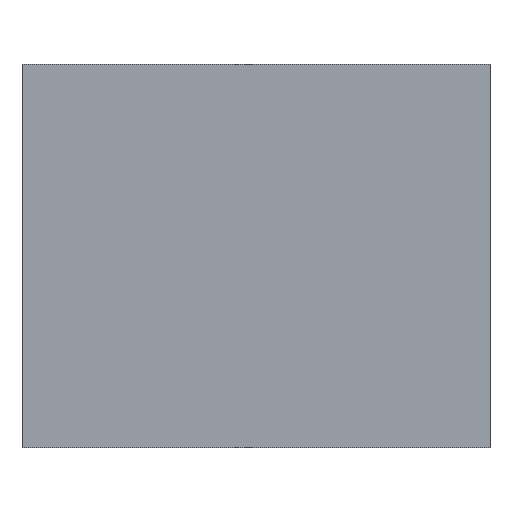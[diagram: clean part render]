
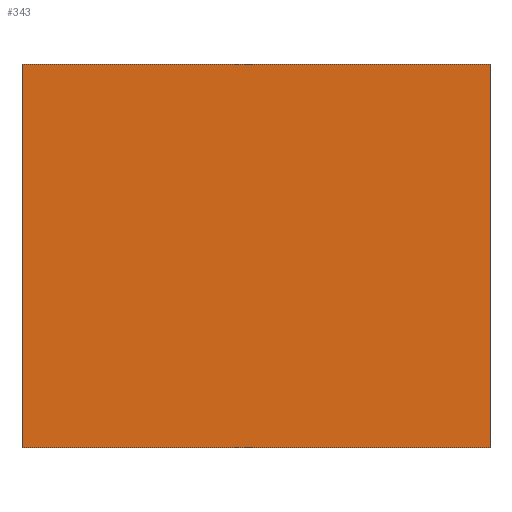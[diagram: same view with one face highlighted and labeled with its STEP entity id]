
A CAD part, left-side view. The second image highlights one B-rep face of the part: STEP entity #343.
In plain terms, the highlighted planar face has unit normal (-1, 0, 0).
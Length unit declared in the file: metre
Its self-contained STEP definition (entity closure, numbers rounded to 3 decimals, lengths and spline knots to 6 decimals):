
#56=ORIENTED_EDGE('',*,*,#143,.F.);
#57=ORIENTED_EDGE('',*,*,#108,.T.);
#58=ORIENTED_EDGE('',*,*,#135,.F.);
#59=ORIENTED_EDGE('',*,*,#137,.F.);
#108=EDGE_CURVE('',#156,#157,#188,.T.);
#135=EDGE_CURVE('',#179,#157,#215,.T.);
#137=EDGE_CURVE('',#180,#179,#217,.T.);
#143=EDGE_CURVE('',#156,#180,#223,.T.);
#156=VERTEX_POINT('',#471);
#157=VERTEX_POINT('',#472);
#179=VERTEX_POINT('',#523);
#180=VERTEX_POINT('',#527);
#188=LINE('',#470,#236);
#215=LINE('',#524,#263);
#217=LINE('',#529,#265);
#223=LINE('',#539,#271);
#236=VECTOR('',#388,1.);
#263=VECTOR('',#421,1.);
#265=VECTOR('',#425,1.);
#271=VECTOR('',#435,1.);
#290=EDGE_LOOP('',(#56,#57,#58,#59));
#308=FACE_BOUND('',#290,.T.);
#326=PLANE('',#373);
#343=ADVANCED_FACE('',(#308),#326,.T.);
#373=AXIS2_PLACEMENT_3D('',#538,#433,#434);
#388=DIRECTION('',(0.,1.,0.));
#421=DIRECTION('',(0.,0.,1.));
#425=DIRECTION('',(0.,1.,0.));
#433=DIRECTION('',(-1.,0.,0.));
#434=DIRECTION('',(0.,0.,1.));
#435=DIRECTION('',(0.,0.,-1.));
#470=CARTESIAN_POINT('',(-0.017,-0.015,0.018));
#471=CARTESIAN_POINT('',(-0.017,0.022336,0.018));
#472=CARTESIAN_POINT('',(-0.017,0.065,0.018));
#523=CARTESIAN_POINT('',(-0.017,0.065,-0.017));
#524=CARTESIAN_POINT('',(-0.017,0.065,0.));
#527=CARTESIAN_POINT('',(-0.017,0.022336,-0.017));
#529=CARTESIAN_POINT('',(-0.017,-0.015,-0.017));
#538=CARTESIAN_POINT('',(-0.017,-0.015,0.));
#539=CARTESIAN_POINT('',(-0.017,0.022336,0.));
